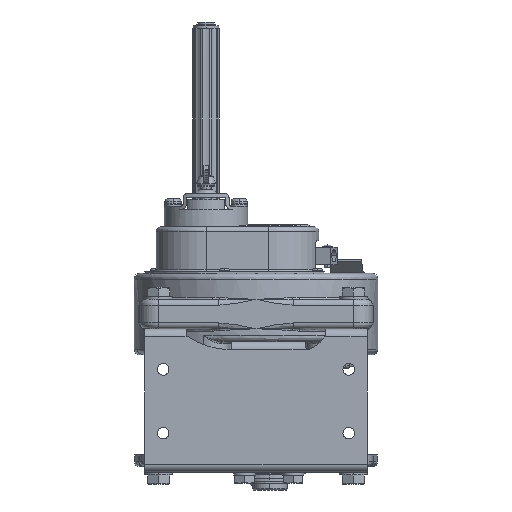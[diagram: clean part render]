
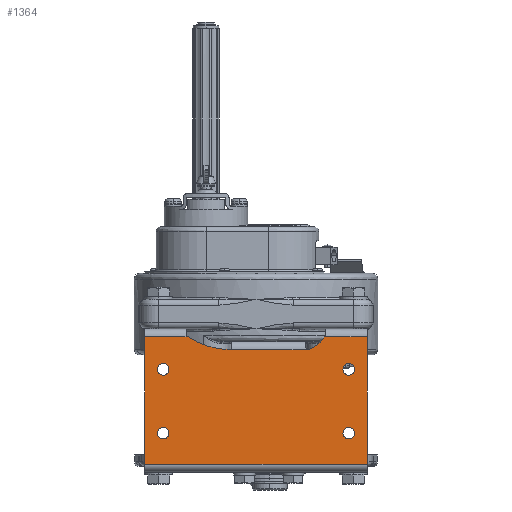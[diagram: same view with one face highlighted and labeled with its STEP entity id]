
A CAD part, front view. The second image highlights one B-rep face of the part: STEP entity #1364.
In plain terms, the highlighted planar face has unit normal (0, -1, 0).
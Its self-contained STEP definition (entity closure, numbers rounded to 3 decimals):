
#1364=ADVANCED_FACE('',(#15327,#15328,#15329,#15330,#15331),#15326,.T.);
#15326=PLANE('',#37605);
#15327=FACE_OUTER_BOUND('',#37606,.T.);
#15328=FACE_BOUND('',#37607,.T.);
#15329=FACE_BOUND('',#37608,.T.);
#15330=FACE_BOUND('',#37609,.T.);
#15331=FACE_BOUND('',#37610,.T.);
#37602=CARTESIAN_POINT('',(374.9,-36.383,-767.726));
#37603=DIRECTION('',(0.,-1.,0.));
#37604=DIRECTION('',(0.,0.,1.));
#37605=AXIS2_PLACEMENT_3D('',#37602,#37603,#37604);
#37606=EDGE_LOOP('',(#55966,#55967,#55968,#55969,#55970,#55971,#55972,#55973,#55974,#55975));
#37607=EDGE_LOOP('',(#55976,#55977));
#37608=EDGE_LOOP('',(#55978,#55979));
#37609=EDGE_LOOP('',(#55980,#55981));
#37610=EDGE_LOOP('',(#55982,#55983));
#55966=ORIENTED_EDGE('',*,*,#66310,.F.);
#55967=ORIENTED_EDGE('',*,*,#66394,.F.);
#55968=ORIENTED_EDGE('',*,*,#66315,.T.);
#55969=ORIENTED_EDGE('',*,*,#66395,.T.);
#55970=ORIENTED_EDGE('',*,*,#66376,.T.);
#55971=ORIENTED_EDGE('',*,*,#66380,.T.);
#55972=ORIENTED_EDGE('',*,*,#66301,.T.);
#55973=ORIENTED_EDGE('',*,*,#66382,.T.);
#55974=ORIENTED_EDGE('',*,*,#66386,.T.);
#55975=ORIENTED_EDGE('',*,*,#66396,.T.);
#55976=ORIENTED_EDGE('',*,*,#66397,.F.);
#55977=ORIENTED_EDGE('',*,*,#66398,.F.);
#55978=ORIENTED_EDGE('',*,*,#66399,.F.);
#55979=ORIENTED_EDGE('',*,*,#66400,.F.);
#55980=ORIENTED_EDGE('',*,*,#66401,.F.);
#55981=ORIENTED_EDGE('',*,*,#66402,.F.);
#55982=ORIENTED_EDGE('',*,*,#66403,.F.);
#55983=ORIENTED_EDGE('',*,*,#66404,.F.);
#66301=EDGE_CURVE('',#93692,#93705,#93712,.T.);
#66310=EDGE_CURVE('',#93768,#93775,#93776,.T.);
#66315=EDGE_CURVE('',#93808,#93809,#93810,.T.);
#66376=EDGE_CURVE('',#94221,#94214,#94222,.T.);
#66380=EDGE_CURVE('',#94214,#93692,#94246,.T.);
#66382=EDGE_CURVE('',#93705,#94253,#94260,.T.);
#66386=EDGE_CURVE('',#94253,#94280,#94287,.T.);
#66394=EDGE_CURVE('',#93808,#93768,#94336,.T.);
#66395=EDGE_CURVE('',#93809,#94221,#94342,.T.);
#66396=EDGE_CURVE('',#94280,#93775,#94348,.T.);
#66397=EDGE_CURVE('',#94354,#94355,#94356,.T.);
#66398=EDGE_CURVE('',#94355,#94354,#94362,.T.);
#66399=EDGE_CURVE('',#94368,#94369,#94370,.T.);
#66400=EDGE_CURVE('',#94369,#94368,#94376,.T.);
#66401=EDGE_CURVE('',#94382,#94383,#94384,.T.);
#66402=EDGE_CURVE('',#94383,#94382,#94390,.T.);
#66403=EDGE_CURVE('',#94396,#94397,#94398,.T.);
#66404=EDGE_CURVE('',#94397,#94396,#94404,.T.);
#93692=VERTEX_POINT('',#129593);
#93705=VERTEX_POINT('',#129613);
#93712=LINE('',#129630,#129631);
#93768=VERTEX_POINT('',#129663);
#93775=VERTEX_POINT('',#129668);
#93776=LINE('',#129669,#129670);
#93808=VERTEX_POINT('',#129688);
#93809=VERTEX_POINT('',#129689);
#93810=LINE('',#129690,#129691);
#94214=VERTEX_POINT('',#129944);
#94221=VERTEX_POINT('',#129948);
#94222=CIRCLE('',#129952,30.);
#94246=CIRCLE('',#129970,2.);
#94253=VERTEX_POINT('',#129972);
#94260=CIRCLE('',#129979,2.);
#94280=VERTEX_POINT('',#129989);
#94287=CIRCLE('',#129997,70.);
#94336=LINE('',#130044,#130045);
#94342=LINE('',#130047,#130048);
#94348=LINE('',#130050,#130051);
#94354=VERTEX_POINT('',#130053);
#94355=VERTEX_POINT('',#130054);
#94356=CIRCLE('',#130058,5.);
#94362=CIRCLE('',#130062,5.);
#94368=VERTEX_POINT('',#130063);
#94369=VERTEX_POINT('',#130064);
#94370=CIRCLE('',#130068,5.);
#94376=CIRCLE('',#130072,5.);
#94382=VERTEX_POINT('',#130073);
#94383=VERTEX_POINT('',#130074);
#94384=CIRCLE('',#130078,5.);
#94390=CIRCLE('',#130082,5.);
#94396=VERTEX_POINT('',#130083);
#94397=VERTEX_POINT('',#130084);
#94398=CIRCLE('',#130088,5.);
#94404=CIRCLE('',#130092,5.);
#129593=CARTESIAN_POINT('',(313.9,-36.383,-659.026));
#129613=CARTESIAN_POINT('',(245.9,-36.383,-659.026));
#129630=CARTESIAN_POINT('',(313.9,-36.383,-659.026));
#129631=VECTOR('',#129632,68.);
#129632=DIRECTION('',(-1.,0.,0.));
#129663=CARTESIAN_POINT('',(172.9,-36.383,-757.726));
#129668=CARTESIAN_POINT('',(172.9,-36.383,-648.026));
#129669=CARTESIAN_POINT('',(172.9,-36.383,-757.726));
#129670=VECTOR('',#129671,109.7);
#129671=DIRECTION('',(0.,0.,1.));
#129688=CARTESIAN_POINT('',(364.9,-36.383,-757.726));
#129689=CARTESIAN_POINT('',(364.9,-36.383,-648.026));
#129690=CARTESIAN_POINT('',(364.9,-36.383,-757.726));
#129691=VECTOR('',#129692,109.7);
#129692=DIRECTION('',(0.,0.,1.));
#129944=CARTESIAN_POINT('',(314.666,-36.383,-658.873));
#129948=CARTESIAN_POINT('',(327.982,-36.383,-648.026));
#129949=CARTESIAN_POINT('',(303.17,-36.383,-631.164));
#129950=DIRECTION('',(0.,1.,0.));
#129951=DIRECTION('',(0.,0.,-1.));
#129952=AXIS2_PLACEMENT_3D('',#129949,#129950,#129951);
#129967=CARTESIAN_POINT('',(313.9,-36.383,-657.026));
#129968=DIRECTION('',(0.,1.,0.));
#129969=DIRECTION('',(0.,0.,-1.));
#129970=AXIS2_PLACEMENT_3D('',#129967,#129968,#129969);
#129972=CARTESIAN_POINT('',(245.837,-36.383,-659.025));
#129976=CARTESIAN_POINT('',(245.9,-36.383,-657.026));
#129977=DIRECTION('',(0.,1.,0.));
#129978=DIRECTION('',(0.,0.,-1.));
#129979=AXIS2_PLACEMENT_3D('',#129976,#129977,#129978);
#129989=CARTESIAN_POINT('',(210.31,-36.383,-648.026));
#129994=CARTESIAN_POINT('',(248.032,-36.383,-589.06));
#129995=DIRECTION('',(0.,1.,0.));
#129996=DIRECTION('',(0.,0.,-1.));
#129997=AXIS2_PLACEMENT_3D('',#129994,#129995,#129996);
#130044=CARTESIAN_POINT('',(364.9,-36.383,-757.726));
#130045=VECTOR('',#130046,192.);
#130046=DIRECTION('',(-1.,0.,0.));
#130047=CARTESIAN_POINT('',(364.9,-36.383,-648.026));
#130048=VECTOR('',#130049,36.917);
#130049=DIRECTION('',(-1.,0.,0.));
#130050=CARTESIAN_POINT('',(210.31,-36.383,-648.026));
#130051=VECTOR('',#130052,37.41);
#130052=DIRECTION('',(-1.,0.,0.));
#130053=CARTESIAN_POINT('',(188.9,-36.383,-671.026));
#130054=CARTESIAN_POINT('',(188.9,-36.383,-681.026));
#130055=CARTESIAN_POINT('',(188.9,-36.383,-676.026));
#130056=DIRECTION('',(0.,-1.,0.));
#130057=DIRECTION('',(0.,0.,-1.));
#130058=AXIS2_PLACEMENT_3D('',#130055,#130056,#130057);
#130059=CARTESIAN_POINT('',(188.9,-36.383,-676.026));
#130060=DIRECTION('',(0.,-1.,0.));
#130061=DIRECTION('',(0.,0.,-1.));
#130062=AXIS2_PLACEMENT_3D('',#130059,#130060,#130061);
#130063=CARTESIAN_POINT('',(348.9,-36.383,-726.026));
#130064=CARTESIAN_POINT('',(348.9,-36.383,-736.026));
#130065=CARTESIAN_POINT('',(348.9,-36.383,-731.026));
#130066=DIRECTION('',(0.,-1.,0.));
#130067=DIRECTION('',(0.,0.,-1.));
#130068=AXIS2_PLACEMENT_3D('',#130065,#130066,#130067);
#130069=CARTESIAN_POINT('',(348.9,-36.383,-731.026));
#130070=DIRECTION('',(0.,-1.,0.));
#130071=DIRECTION('',(0.,0.,-1.));
#130072=AXIS2_PLACEMENT_3D('',#130069,#130070,#130071);
#130073=CARTESIAN_POINT('',(348.9,-36.383,-671.026));
#130074=CARTESIAN_POINT('',(348.9,-36.383,-681.026));
#130075=CARTESIAN_POINT('',(348.9,-36.383,-676.026));
#130076=DIRECTION('',(0.,-1.,0.));
#130077=DIRECTION('',(0.,0.,-1.));
#130078=AXIS2_PLACEMENT_3D('',#130075,#130076,#130077);
#130079=CARTESIAN_POINT('',(348.9,-36.383,-676.026));
#130080=DIRECTION('',(0.,-1.,0.));
#130081=DIRECTION('',(0.,0.,-1.));
#130082=AXIS2_PLACEMENT_3D('',#130079,#130080,#130081);
#130083=CARTESIAN_POINT('',(188.9,-36.383,-726.026));
#130084=CARTESIAN_POINT('',(188.9,-36.383,-736.026));
#130085=CARTESIAN_POINT('',(188.9,-36.383,-731.026));
#130086=DIRECTION('',(0.,-1.,0.));
#130087=DIRECTION('',(0.,0.,-1.));
#130088=AXIS2_PLACEMENT_3D('',#130085,#130086,#130087);
#130089=CARTESIAN_POINT('',(188.9,-36.383,-731.026));
#130090=DIRECTION('',(0.,-1.,0.));
#130091=DIRECTION('',(0.,0.,-1.));
#130092=AXIS2_PLACEMENT_3D('',#130089,#130090,#130091);
